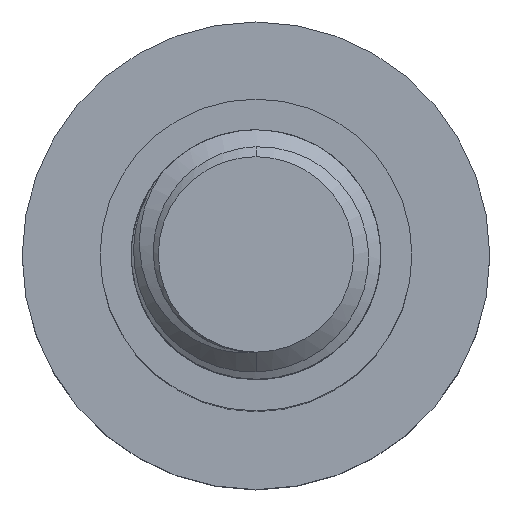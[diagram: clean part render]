
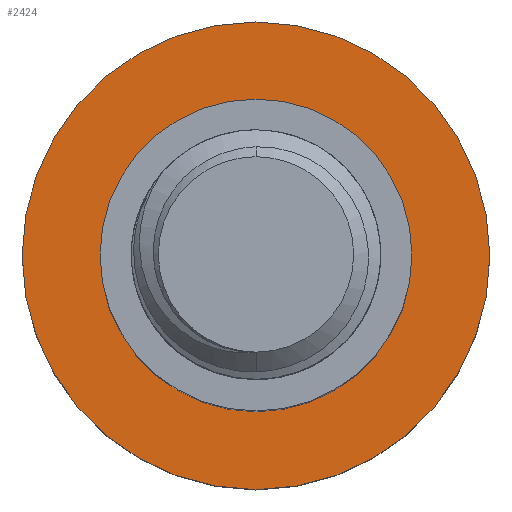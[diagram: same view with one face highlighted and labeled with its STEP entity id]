
A CAD part, top view. The second image highlights one B-rep face of the part: STEP entity #2424.
In plain terms, the highlighted planar face has unit normal (0, 0, 1).
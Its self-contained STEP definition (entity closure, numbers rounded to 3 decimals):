
#201 = CARTESIAN_POINT ( 'NONE',  ( -10., 0., -30. ) ) ;
#219 = DIRECTION ( 'NONE',  ( -1., 0., 0. ) ) ;
#344 = ORIENTED_EDGE ( 'NONE', *, *, #417, .T. ) ;
#351 = DIRECTION ( 'NONE',  ( 0., 0., -1. ) ) ;
#417 = EDGE_CURVE ( 'NONE', #3094, #2430, #2123, .T. ) ;
#475 = ORIENTED_EDGE ( 'NONE', *, *, #1579, .F. ) ;
#514 = EDGE_LOOP ( 'NONE', ( #905, #344 ) ) ;
#650 = CARTESIAN_POINT ( 'NONE',  ( 0., 0., -30. ) ) ;
#653 = AXIS2_PLACEMENT_3D ( 'NONE', #765, #351, #2618 ) ;
#765 = CARTESIAN_POINT ( 'NONE',  ( 0., 0., -30. ) ) ;
#879 = DIRECTION ( 'NONE',  ( 0., 0., -1. ) ) ;
#881 = EDGE_CURVE ( 'NONE', #4349, #2539, #1863, .T. ) ;
#905 = ORIENTED_EDGE ( 'NONE', *, *, #1884, .T. ) ;
#1404 = AXIS2_PLACEMENT_3D ( 'NONE', #1456, #4994, #3288 ) ;
#1456 = CARTESIAN_POINT ( 'NONE',  ( 0., 0., -30. ) ) ;
#1579 = EDGE_CURVE ( 'NONE', #2539, #4349, #5524, .T. ) ;
#1624 = DIRECTION ( 'NONE',  ( 0., 0., -1. ) ) ;
#1863 = CIRCLE ( 'NONE', #4321, 15. ) ;
#1884 = EDGE_CURVE ( 'NONE', #2430, #3094, #4789, .T. ) ;
#1934 = DIRECTION ( 'NONE',  ( 0., 0., -1. ) ) ;
#2031 = CARTESIAN_POINT ( 'NONE',  ( 0., 0., -30. ) ) ;
#2123 = CIRCLE ( 'NONE', #3158, 10. ) ;
#2422 = FACE_BOUND ( 'NONE', #514, .T. ) ;
#2424 = ADVANCED_FACE ( 'NONE', ( #2422, #4497 ), #4967, .F. ) ;
#2430 = VERTEX_POINT ( 'NONE', #201 ) ;
#2539 = VERTEX_POINT ( 'NONE', #5017 ) ;
#2618 = DIRECTION ( 'NONE',  ( -1., 0., 0. ) ) ;
#2691 = AXIS2_PLACEMENT_3D ( 'NONE', #650, #1934, #219 ) ;
#2938 = CARTESIAN_POINT ( 'NONE',  ( 15., 0., -30. ) ) ;
#3073 = CARTESIAN_POINT ( 'NONE',  ( 0., 0., -30. ) ) ;
#3094 = VERTEX_POINT ( 'NONE', #3990 ) ;
#3158 = AXIS2_PLACEMENT_3D ( 'NONE', #3073, #879, #4386 ) ;
#3288 = DIRECTION ( 'NONE',  ( -1., 0., 0. ) ) ;
#3823 = DIRECTION ( 'NONE',  ( -1., 0., 0. ) ) ;
#3937 = ORIENTED_EDGE ( 'NONE', *, *, #881, .F. ) ;
#3990 = CARTESIAN_POINT ( 'NONE',  ( 10., 0., -30. ) ) ;
#4321 = AXIS2_PLACEMENT_3D ( 'NONE', #2031, #1624, #3823 ) ;
#4349 = VERTEX_POINT ( 'NONE', #2938 ) ;
#4386 = DIRECTION ( 'NONE',  ( -1., 0., 0. ) ) ;
#4497 = FACE_OUTER_BOUND ( 'NONE', #5536, .T. ) ;
#4789 = CIRCLE ( 'NONE', #653, 10. ) ;
#4967 = PLANE ( 'NONE',  #1404 ) ;
#4994 = DIRECTION ( 'NONE',  ( 0., 0., -1. ) ) ;
#5017 = CARTESIAN_POINT ( 'NONE',  ( -15., 0., -30. ) ) ;
#5524 = CIRCLE ( 'NONE', #2691, 15. ) ;
#5536 = EDGE_LOOP ( 'NONE', ( #3937, #475 ) ) ;
